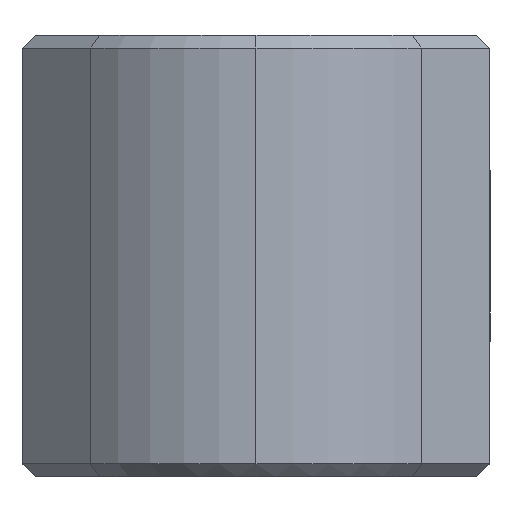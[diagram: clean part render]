
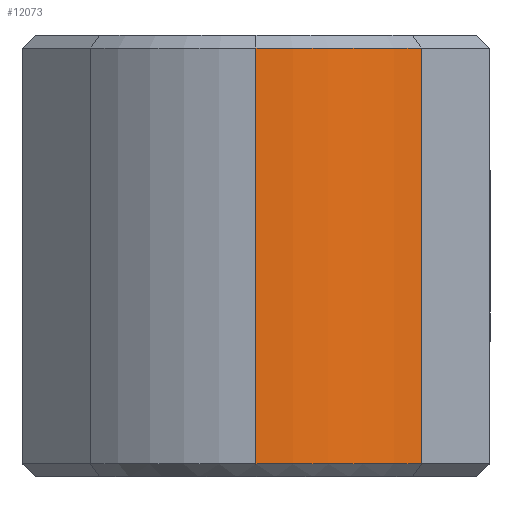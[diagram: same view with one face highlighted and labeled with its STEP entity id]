
A CAD part, left-side view. The second image highlights one B-rep face of the part: STEP entity #12073.
In plain terms, the highlighted cylindrical face has radius 9 mm (diameter 18 mm), a partial arc.
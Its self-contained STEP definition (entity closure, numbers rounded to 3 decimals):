
#1010 = CARTESIAN_POINT ( 'NONE',  ( -32.592, 7.623, 13.589 ) ) ;
#1023 = CARTESIAN_POINT ( 'NONE',  ( -35.228, 13.987, 13.589 ) ) ;
#5085 = VERTEX_POINT ( 'NONE', #5746 ) ;
#5092 = VERTEX_POINT ( 'NONE', #5800 ) ;
#5746 = CARTESIAN_POINT ( 'NONE',  ( -32.592, 7.623, -2.411 ) ) ;
#5800 = CARTESIAN_POINT ( 'NONE',  ( -35.228, 13.987, -2.411 ) ) ;
#9308 = AXIS2_PLACEMENT_3D ( 'NONE', #11615, #11616, #11617 ) ;
#9316 = AXIS2_PLACEMENT_3D ( 'NONE', #11660, #11661, #11662 ) ;
#9342 = AXIS2_PLACEMENT_3D ( 'NONE', #11892, #11893, #11901 ) ;
#9543 = EDGE_CURVE ( 'NONE', #15509, #13993, #10979, .T. ) ;
#9560 = EDGE_CURVE ( 'NONE', #13993, #5092, #11005, .T. ) ;
#9561 = EDGE_CURVE ( 'NONE', #5092, #5085, #11007, .T. ) ;
#9562 = EDGE_CURVE ( 'NONE', #15509, #5085, #11009, .T. ) ;
#10979 = CIRCLE ( 'NONE', #9308, 9. ) ;
#11005 = LINE ( 'NONE', #11656, #11008 ) ;
#11007 = CIRCLE ( 'NONE', #9316, 9. ) ;
#11008 = VECTOR ( 'NONE', #11657, 1000. ) ;
#11009 = LINE ( 'NONE', #11651, #11011 ) ;
#11011 = VECTOR ( 'NONE', #11652, 1000. ) ;
#11058 = FACE_OUTER_BOUND ( 'NONE', #14123, .T. ) ;
#11066 = CYLINDRICAL_SURFACE ( 'NONE', #9342, 9. ) ;
#11615 = CARTESIAN_POINT ( 'NONE',  ( -26.228, 13.987, 13.589 ) ) ;
#11616 = DIRECTION ( 'NONE',  ( 0., 0., -1. ) ) ;
#11617 = DIRECTION ( 'NONE',  ( -1., 0., 0. ) ) ;
#11651 = CARTESIAN_POINT ( 'NONE',  ( -32.592, 7.623, 15.089 ) ) ;
#11652 = DIRECTION ( 'NONE',  ( 0., 0., -1. ) ) ;
#11656 = CARTESIAN_POINT ( 'NONE',  ( -35.228, 13.987, 15.089 ) ) ;
#11657 = DIRECTION ( 'NONE',  ( 0., 0., -1. ) ) ;
#11660 = CARTESIAN_POINT ( 'NONE',  ( -26.228, 13.987, -2.411 ) ) ;
#11661 = DIRECTION ( 'NONE',  ( 0., 0., 1. ) ) ;
#11662 = DIRECTION ( 'NONE',  ( 1., 0., 0. ) ) ;
#11892 = CARTESIAN_POINT ( 'NONE',  ( -26.228, 13.987, 15.089 ) ) ;
#11893 = DIRECTION ( 'NONE',  ( 0., 0., -1. ) ) ;
#11901 = DIRECTION ( 'NONE',  ( -1., 0., 0. ) ) ;
#12073 = ADVANCED_FACE ( 'NONE', ( #11058 ), #11066, .T. ) ;
#13149 = ORIENTED_EDGE ( 'NONE', *, *, #9543, .T. ) ;
#13152 = ORIENTED_EDGE ( 'NONE', *, *, #9560, .T. ) ;
#13154 = ORIENTED_EDGE ( 'NONE', *, *, #9561, .T. ) ;
#13155 = ORIENTED_EDGE ( 'NONE', *, *, #9562, .F. ) ;
#13993 = VERTEX_POINT ( 'NONE', #1023 ) ;
#14123 = EDGE_LOOP ( 'NONE', ( #13149, #13152, #13154, #13155 ) ) ;
#15509 = VERTEX_POINT ( 'NONE', #1010 ) ;
